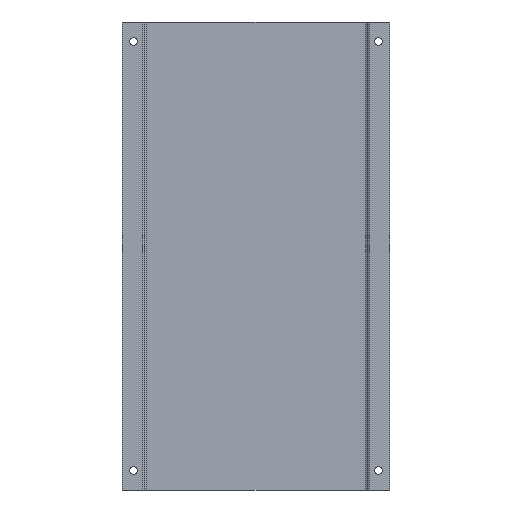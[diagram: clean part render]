
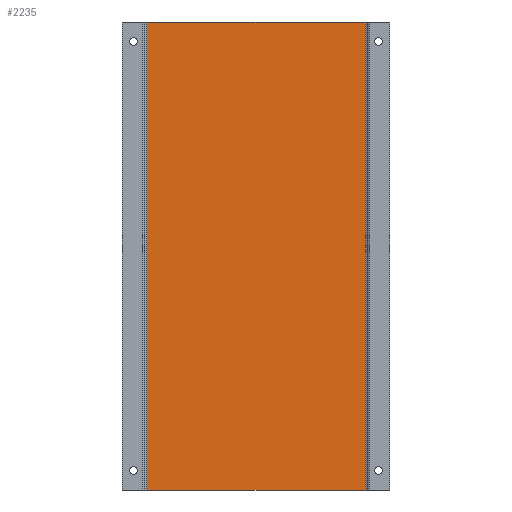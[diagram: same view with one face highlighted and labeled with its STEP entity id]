
A CAD part, left-side view. The second image highlights one B-rep face of the part: STEP entity #2235.
In plain terms, the highlighted planar face has unit normal (-1, 0, 0).
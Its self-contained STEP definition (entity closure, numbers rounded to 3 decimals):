
#27 = VERTEX_POINT ( 'NONE', #599 ) ;
#108 = DIRECTION ( 'NONE',  ( 0., 0., 1. ) ) ;
#454 = CARTESIAN_POINT ( 'NONE',  ( 20., -98., 210. ) ) ;
#463 = LINE ( 'NONE', #1965, #987 ) ;
#511 = ORIENTED_EDGE ( 'NONE', *, *, #1311, .T. ) ;
#599 = CARTESIAN_POINT ( 'NONE',  ( 20., 98., 210. ) ) ;
#676 = VECTOR ( 'NONE', #1489, 1000. ) ;
#678 = VECTOR ( 'NONE', #1277, 1000. ) ;
#709 = AXIS2_PLACEMENT_3D ( 'NONE', #789, #1458, #108 ) ;
#789 = CARTESIAN_POINT ( 'NONE',  ( 20., 98., 210. ) ) ;
#963 = DIRECTION ( 'NONE',  ( 0., 1., 0. ) ) ;
#987 = VECTOR ( 'NONE', #963, 1000. ) ;
#1227 = EDGE_LOOP ( 'NONE', ( #4128, #3657, #3117, #511 ) ) ;
#1277 = DIRECTION ( 'NONE',  ( 0., 1., 0. ) ) ;
#1284 = VERTEX_POINT ( 'NONE', #454 ) ;
#1311 = EDGE_CURVE ( 'NONE', #27, #1860, #1947, .T. ) ;
#1409 = VECTOR ( 'NONE', #2288, 1000. ) ;
#1458 = DIRECTION ( 'NONE',  ( -1., 0., 0. ) ) ;
#1489 = DIRECTION ( 'NONE',  ( 0., 0., -1. ) ) ;
#1654 = EDGE_CURVE ( 'NONE', #1284, #27, #2778, .T. ) ;
#1806 = CARTESIAN_POINT ( 'NONE',  ( 20., 98., -210. ) ) ;
#1860 = VERTEX_POINT ( 'NONE', #1806 ) ;
#1947 = LINE ( 'NONE', #3829, #676 ) ;
#1965 = CARTESIAN_POINT ( 'NONE',  ( 20., 98., -210. ) ) ;
#2235 = ADVANCED_FACE ( 'NONE', ( #4060 ), #3099, .T. ) ;
#2288 = DIRECTION ( 'NONE',  ( 0., 0., -1. ) ) ;
#2317 = LINE ( 'NONE', #4020, #1409 ) ;
#2778 = LINE ( 'NONE', #3304, #678 ) ;
#3099 = PLANE ( 'NONE',  #709 ) ;
#3117 = ORIENTED_EDGE ( 'NONE', *, *, #1654, .T. ) ;
#3304 = CARTESIAN_POINT ( 'NONE',  ( 20., 98., 210. ) ) ;
#3657 = ORIENTED_EDGE ( 'NONE', *, *, #3662, .F. ) ;
#3662 = EDGE_CURVE ( 'NONE', #1284, #4134, #2317, .T. ) ;
#3740 = EDGE_CURVE ( 'NONE', #4134, #1860, #463, .T. ) ;
#3829 = CARTESIAN_POINT ( 'NONE',  ( 20., 98., 210. ) ) ;
#4020 = CARTESIAN_POINT ( 'NONE',  ( 20., -98., 210. ) ) ;
#4060 = FACE_OUTER_BOUND ( 'NONE', #1227, .T. ) ;
#4096 = CARTESIAN_POINT ( 'NONE',  ( 20., -98., -210. ) ) ;
#4128 = ORIENTED_EDGE ( 'NONE', *, *, #3740, .F. ) ;
#4134 = VERTEX_POINT ( 'NONE', #4096 ) ;
